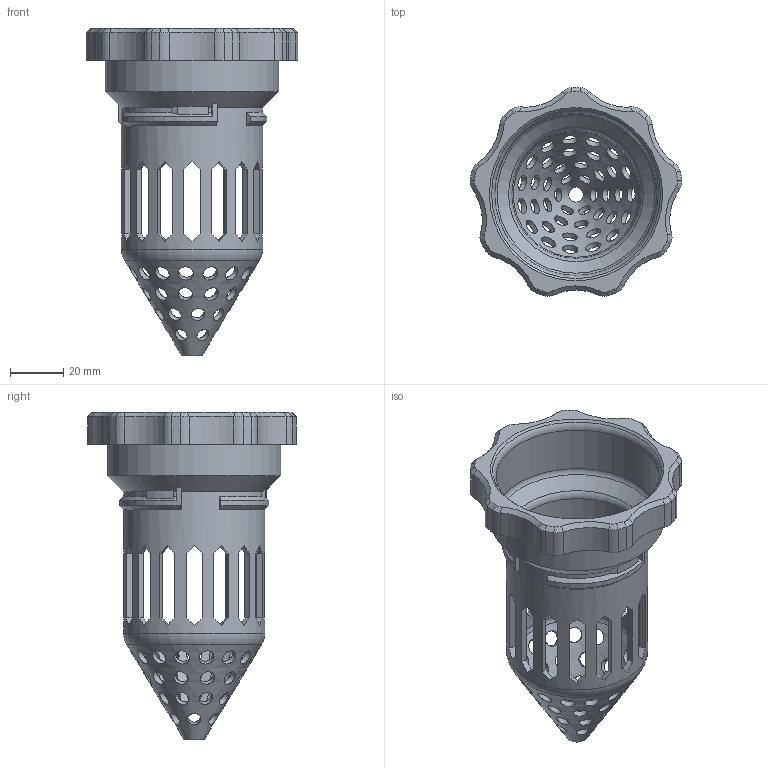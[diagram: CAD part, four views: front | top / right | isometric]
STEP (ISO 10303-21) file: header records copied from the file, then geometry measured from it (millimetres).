
FILE_DESCRIPTION(/* description */ (''),/* implementation_level */ '2;1');
FILE_NAME(/* name */ 'Standard_Pot_For_4-5-Way_Planting_Module_Long v10.step',/* time_stamp */ '2023-06-25T16:23:15+02:00',/* author */ (''),/* organization */ (''),/* preprocessor_version */ 'ST-DEVELOPER v19.2',/* originating_system */ 'Autodesk Translation Framework v12.6.0.85',/* authorisation */ '');
FILE_SCHEMA (('AUTOMOTIVE_DESIGN { 1 0 10303 214 3 1 1 }'));
Length unit declared in the file: millimetre
Products named in the file (1): Standard_Pot_For_4-5-Way_Planting_Module_Long
Bounding box: 79.38 x 78.35 x 122.63 mm (x, y, z)
Volume: 41170.1 mm3; surface area: 41559.9 mm2
Topology: 1 solids, 1 shells, 338 faces, 1073 edges, 727 vertices
Faces by surface type: cylinder 126, plane 122, cone 48, torus 24, bspline 18
Full cylindrical faces by diameter (mm): 5 x6, 5.25 x9, 5.5 x11, 5.75 x15, 48.2 x1, 53 x1, 61 x1, 65 x1
Entity records: 15257 total; most frequent: CARTESIAN_POINT 5543, ORIENTED_EDGE 2146, DIRECTION 1947, EDGE_CURVE 1073, AXIS2_PLACEMENT_3D 782, VERTEX_POINT 727, EDGE_LOOP 444, LINE 383
